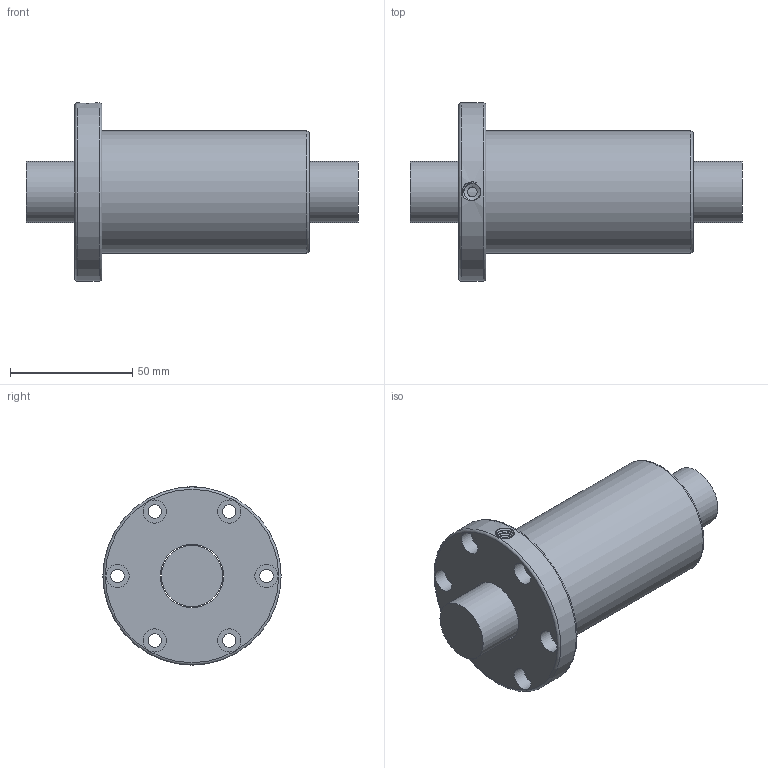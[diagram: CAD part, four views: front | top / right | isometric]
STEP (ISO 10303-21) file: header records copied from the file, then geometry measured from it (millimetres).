
FILE_DESCRIPTION(/* description */ ('Unknown','CAx-IF Rec.Pracs.---Representation and Presentation of Product Manufacturing Information (PMI)---4.0---2014-10-13','CAx-IF Rec.Pracs.---3D Tessellated Geometry---0.4---2014-09-14','2;1'),/* implementation_level */ '2;1');
FILE_NAME(/* name */ 'OFV02505-4.8',/* time_stamp */ '2020-12-08T11:52:52+08:00',/* author */ ('Unknown'),/* organization */ ('Unknown'),/* preprocessor_version */ 'ST-DEVELOPER v16.7',/* originating_system */ 'Solid Edge',/* authorisation */ 'Unknown');
FILE_SCHEMA (('AP242_MANAGED_MODEL_BASED_3D_ENGINEERING_MIM_LF { 1 0 10303 442 1 1 4 }'));
Length unit declared in the file: millimetre
Products named in the file (1): OFV02505-4.8
Bounding box: 136 x 73 x 73 mm (x, y, z)
Volume: 224915.4 mm3; surface area: 44150.2 mm2
Topology: 2 solids, 2 shells, 38 faces, 82 edges, 55 vertices
Faces by surface type: cylinder 20, plane 12, torus 3, bspline 2, cone 1
Full cylindrical faces by diameter (mm): 4 x1, 5.5 x6, 6.917 x1, 9.5 x6, 25 x1, 26 x1, 50 x1, 73 x1
Entity records: 2797 total; most frequent: CARTESIAN_POINT 1995, DIRECTION 160, ORIENTED_EDGE 102, EDGE_LOOP 83, FACE_BOUND 83, AXIS2_PLACEMENT_3D 81, EDGE_CURVE 51, VERTEX_POINT 46
